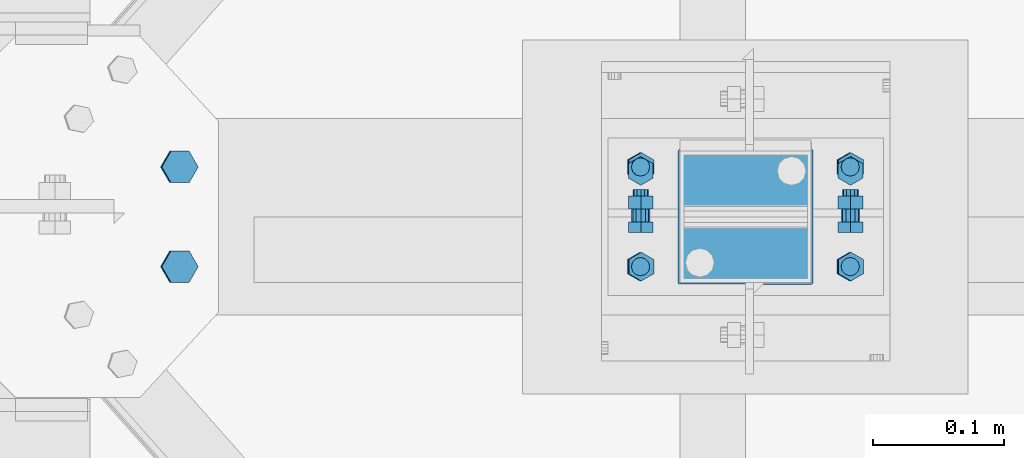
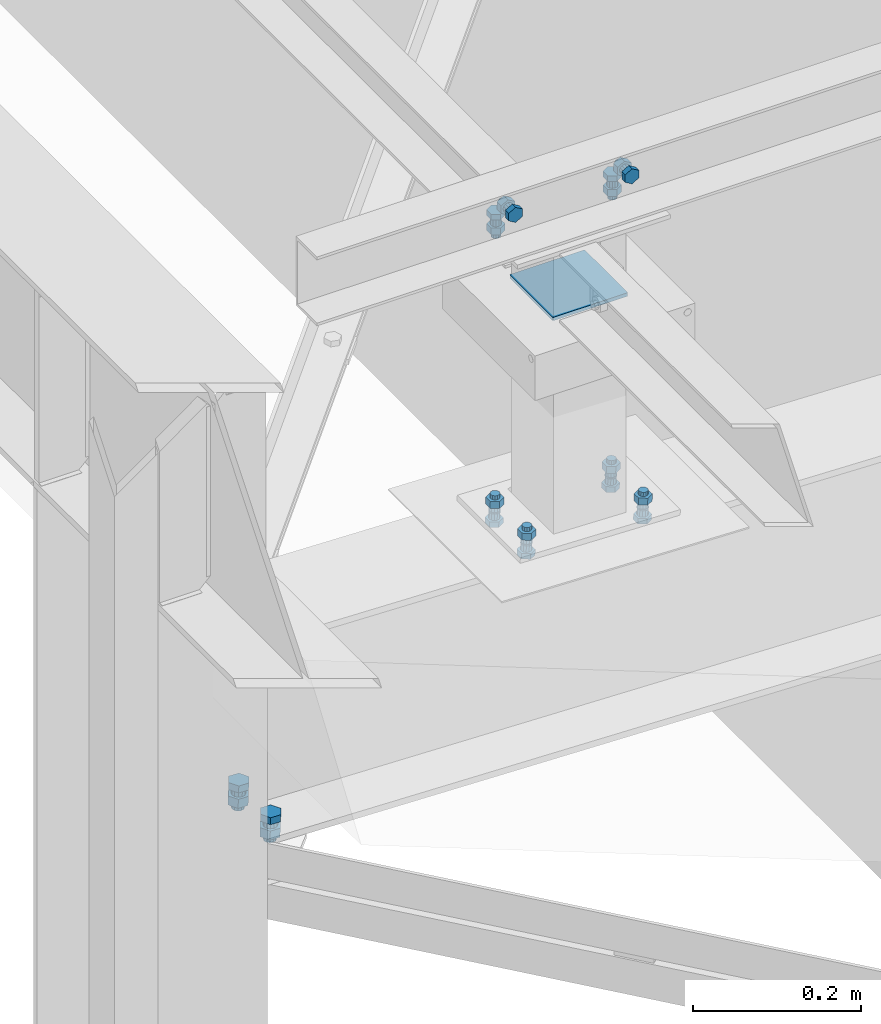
# One storey, part 352 of 3134: 6 mechanical fasteners, 4 elements without a shape of their own.
"""IFC2X3 building model written with IfcOpenShell, lengths in millimetres."""

from ifc_helpers import new_model, si_unit, frame, origin_with_axes, place, context, subcontext, project, spatial, faceted_brep, source, transform, mapped, material, type_object, element, aggregate, save


model = new_model("IFC2X3")

# Units and contexts
model_context = context("Model", 3, precision=1e-05, world=origin_with_axes())
body_context = subcontext(model_context, "Body", "Model", "MODEL_VIEW")
ifc_project = project(units=[si_unit("LENGTHUNIT", "METRE", prefix="MILLI"), si_unit("AREAUNIT", "SQUARE_METRE"), si_unit("VOLUMEUNIT", "CUBIC_METRE"), si_unit("MASSUNIT", "GRAM", prefix="KILO"), si_unit("TIMEUNIT", "SECOND"), si_unit("PLANEANGLEUNIT", "RADIAN"), si_unit("SOLIDANGLEUNIT", "STERADIAN"), si_unit("THERMODYNAMICTEMPERATUREUNIT", "DEGREE_CELSIUS"), si_unit("LUMINOUSINTENSITYUNIT", "LUMEN")], contexts=[model_context])

# Site, building, storey
site_placement = place(None, origin_with_axes())
site = spatial("IfcSite", under=ifc_project, at=site_placement, CompositionType="ELEMENT")
building_placement = place(site_placement, origin_with_axes())
building = spatial("IfcBuilding", under=site, at=building_placement, Name="Undefined", CompositionType="ELEMENT")
storey_placement = place(building_placement, origin_with_axes())
storey = spatial("IfcBuildingStorey", under=building, at=storey_placement, Name="Undefined", CompositionType="ELEMENT", Elevation=0.0)

# Assembly, mechanical fastener
assembly_1_placement = place(storey_placement, origin_with_axes())
assembly_1 = element("IfcElementAssembly", 1, at=assembly_1_placement, inside=storey, AssemblyPlace="NOTDEFINED", PredefinedType="RIGID_FRAME")
ifc_material_1 = material(Name="8.8")
mechanical_fastener_type = type_object("IfcMechanicalFastenerType", Name="Bolt assembly")
shared_shape_1 = source(origin_with_axes(), body_context, "Body", "Brep", [
    faceted_brep([(10.9696551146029, -14.0, 0.0), (5.48482755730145, -14.0, 9.5), (-5.48482755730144, -14.0, 9.5), (-10.9696551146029, -14.0, 1.34339530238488e-15), (-5.48482755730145, -14.0, -9.5), (5.48482755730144, -14.0, -9.50000000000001), (5.48482755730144, -6.0, -9.50000000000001), (-5.48482755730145, -6.0, -9.5), (-10.9696551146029, -6.0, 1.34339530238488e-15), (-5.48482755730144, -6.0, 9.5), (5.48482755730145, -6.0, 9.5), (10.9696551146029, -6.0, 0.0), (6.0, -6.0, 0.0), (5.19615242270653, -6.0, 3.00000000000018), (2.99999999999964, -6.0, 5.19615242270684), (-6.21801588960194e-13, -6.0, 6.0), (-3.00000000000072, -6.0, 5.19615242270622), (-5.19615242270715, -6.0, 2.9999999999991), (-6.0, -6.0, -1.24360317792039e-12), (-5.19615242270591, -6.0, -3.00000000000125), (-2.99999999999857, -6.0, -5.19615242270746), (1.85874342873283e-12, -6.0, -6.0), (3.00000000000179, -6.0, -5.1961524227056), (5.19615242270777, -6.0, -2.99999999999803), (5.19615242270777, 24.0, -2.99999999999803), (3.00000000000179, 24.0, -5.1961524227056), (1.85874342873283e-12, 24.0, -6.0), (-2.99999999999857, 24.0, -5.19615242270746), (-5.19615242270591, 24.0, -3.00000000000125), (-6.0, 24.0, -1.24360317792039e-12), (-5.19615242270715, 24.0, 2.9999999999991), (-3.00000000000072, 24.0, 5.19615242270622), (-6.21801588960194e-13, 24.0, 6.0), (2.99999999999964, 24.0, 5.19615242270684), (5.19615242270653, 24.0, 3.00000000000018), (6.0, 24.0, 0.0), (10.9696551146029, 6.00000000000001, 0.0), (5.48482755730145, 6.00000000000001, 9.5), (-5.48482755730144, 6.00000000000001, 9.5), (-10.9696551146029, 6.00000000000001, 1.34339530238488e-15), (-5.48482755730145, 6.00000000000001, -9.5), (5.48482755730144, 6.00000000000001, -9.50000000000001), (5.48482755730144, 16.0, -9.50000000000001), (-5.48482755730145, 16.0, -9.5), (-10.9696551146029, 16.0, 1.34339530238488e-15), (-5.48482755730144, 16.0, 9.5), (5.48482755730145, 16.0, 9.5), (10.9696551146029, 16.0, 0.0)], [[[0, 1, 2, 3, 4, 5]], [[6, 7, 8, 9, 10, 11]], [[0, 11, 10, 1]], [[1, 10, 9, 2]], [[2, 9, 8, 3]], [[3, 8, 7, 4]], [[4, 7, 6, 5]], [[5, 6, 11, 0]], [[12, 13, 14, 15, 16, 17, 18, 19, 20, 21, 22, 23]], [[24, 25, 26, 27, 28, 29, 30, 31, 32, 33, 34, 35]], [[12, 35, 34, 13]], [[13, 34, 33, 14]], [[14, 33, 32, 15]], [[15, 32, 31, 16]], [[16, 31, 30, 17]], [[17, 30, 29, 18]], [[18, 29, 28, 19]], [[19, 28, 27, 20]], [[20, 27, 26, 21]], [[21, 26, 25, 22]], [[22, 25, 24, 23]], [[23, 24, 35, 12]], [[36, 37, 38, 39, 40, 41]], [[42, 43, 44, 45, 46, 47]], [[36, 47, 46, 37]], [[37, 46, 45, 38]], [[38, 45, 44, 39]], [[39, 44, 43, 40]], [[40, 43, 42, 41]], [[41, 42, 47, 36]]]),
    faceted_brep([(7.0, -0.1, 0.0), (6.06217782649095, -0.1, 3.50000000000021), (3.49999999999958, -0.1, 6.06217782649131), (-7.25435187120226e-13, -0.1, 7.0), (-3.50000000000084, -0.1, 6.06217782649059), (-6.06217782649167, -0.1, 3.49999999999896), (-7.0, -0.1, -1.45087037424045e-12), (-6.06217782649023, -0.1, -3.50000000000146), (-3.49999999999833, -0.1, -6.06217782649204), (2.1685340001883e-12, -0.1, -7.0), (3.50000000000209, -0.1, -6.06217782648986), (6.0621778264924, -0.1, -3.4999999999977), (6.0621778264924, 6.00000000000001, -3.4999999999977), (3.50000000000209, 6.00000000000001, -6.06217782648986), (2.1685340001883e-12, 6.00000000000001, -7.0), (-3.49999999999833, 6.00000000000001, -6.06217782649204), (-6.06217782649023, 6.00000000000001, -3.50000000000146), (-7.0, 6.00000000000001, -1.45087037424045e-12), (-6.06217782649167, 6.00000000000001, 3.49999999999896), (-3.50000000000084, 6.00000000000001, 6.06217782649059), (-7.25435187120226e-13, 6.00000000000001, 7.0), (3.49999999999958, 6.00000000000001, 6.06217782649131), (6.06217782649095, 6.00000000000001, 3.50000000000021), (7.0, 6.00000000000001, 0.0), (7.0, -5.9, 0.0), (6.06217782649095, -5.9, 3.50000000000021), (3.49999999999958, -5.9, 6.06217782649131), (-7.25435187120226e-13, -5.9, 7.0), (-3.50000000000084, -5.9, 6.06217782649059), (-6.06217782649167, -5.9, 3.49999999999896), (-7.0, -5.9, -1.45087037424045e-12), (-6.06217782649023, -5.9, -3.50000000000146), (-3.49999999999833, -5.9, -6.06217782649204), (2.1685340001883e-12, -5.9, -7.0), (3.50000000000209, -5.9, -6.06217782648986), (6.0621778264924, -5.9, -3.4999999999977), (6.0621778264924, 0.0999999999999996, -3.4999999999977), (3.50000000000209, 0.0999999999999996, -6.06217782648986), (2.1685340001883e-12, 0.0999999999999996, -7.0), (-3.49999999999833, 0.0999999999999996, -6.06217782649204), (-6.06217782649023, 0.0999999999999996, -3.50000000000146), (-7.0, 0.0999999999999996, -1.45087037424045e-12), (-6.06217782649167, 0.0999999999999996, 3.49999999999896), (-3.50000000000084, 0.0999999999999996, 6.06217782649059), (-7.25435187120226e-13, 0.0999999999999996, 7.0), (3.49999999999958, 0.0999999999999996, 6.06217782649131), (6.06217782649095, 0.0999999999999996, 3.50000000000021), (7.0, 0.0999999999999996, 0.0)], [[[0, 1, 2, 3, 4, 5, 6, 7, 8, 9, 10, 11]], [[12, 13, 14, 15, 16, 17, 18, 19, 20, 21, 22, 23]], [[0, 23, 22, 1]], [[1, 22, 21, 2]], [[2, 21, 20, 3]], [[3, 20, 19, 4]], [[4, 19, 18, 5]], [[5, 18, 17, 6]], [[6, 17, 16, 7]], [[7, 16, 15, 8]], [[8, 15, 14, 9]], [[9, 14, 13, 10]], [[10, 13, 12, 11]], [[11, 12, 23, 0]], [[24, 25, 26, 27, 28, 29, 30, 31, 32, 33, 34, 35]], [[36, 37, 38, 39, 40, 41, 42, 43, 44, 45, 46, 47]], [[24, 47, 46, 25]], [[25, 46, 45, 26]], [[26, 45, 44, 27]], [[27, 44, 43, 28]], [[28, 43, 42, 29]], [[29, 42, 41, 30]], [[30, 41, 40, 31]], [[31, 40, 39, 32]], [[32, 39, 38, 33]], [[33, 38, 37, 34]], [[34, 37, 36, 35]], [[35, 36, 47, 24]]]),
])
mechanical_fastener_1_placement = place(assembly_1_placement, frame((68125.0, 14765.0, 5850.0), z_axis=(1.0, 0.0, 0.0), x_axis=(0.0, -1.0, 0.0)))
mechanical_fastener_1 = element("IfcMechanicalFastener", 2, at=mechanical_fastener_1_placement, type_object=mechanical_fastener_type, material=ifc_material_1, Name="Bolt assembly", NominalDiameter=12.0, NominalLength=30.0, context=body_context, shape_type="MappedRepresentation", body=[
    mapped(shared_shape_1, transform((0.0, -5.32963895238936e-10, -79.9999999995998))),
    mapped(shared_shape_1, transform((0.0, 5.3114490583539e-10, 79.9999999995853))),
])

assembly_2_placement = place(storey_placement, origin_with_axes())
assembly_2 = element("IfcElementAssembly", 3, at=assembly_2_placement, inside=storey, AssemblyPlace="NOTDEFINED", PredefinedType="RIGID_FRAME")
shared_shape_2 = source(origin_with_axes(), body_context, "Body", "Brep", [
    faceted_brep([(7.0, 13.0000253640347, 0.0), (6.06217782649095, 13.0000253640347, 3.50000000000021), (3.49999999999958, 13.0000253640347, 6.06217782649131), (-7.25435187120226e-13, 13.0000253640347, 7.0), (-3.50000000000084, 13.0000253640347, 6.06217782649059), (-6.06217782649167, 13.0000253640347, 3.49999999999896), (-7.0, 13.0000253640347, -1.45087037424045e-12), (-6.06217782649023, 13.0000253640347, -3.50000000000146), (-3.49999999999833, 13.0000253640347, -6.06217782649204), (2.1685340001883e-12, 13.0000253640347, -7.0), (3.50000000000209, 13.0000253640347, -6.06217782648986), (6.0621778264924, 13.0000253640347, -3.4999999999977), (6.0621778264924, 15.0999999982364, -3.4999999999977), (3.50000000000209, 15.0999999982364, -6.06217782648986), (2.1685340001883e-12, 15.0999999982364, -7.0), (-3.49999999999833, 15.0999999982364, -6.06217782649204), (-6.06217782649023, 15.0999999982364, -3.50000000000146), (-7.0, 15.0999999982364, -1.45087037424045e-12), (-6.06217782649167, 15.0999999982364, 3.49999999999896), (-3.50000000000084, 15.0999999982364, 6.06217782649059), (-7.25435187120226e-13, 15.0999999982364, 7.0), (3.49999999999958, 15.0999999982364, 6.06217782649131), (6.06217782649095, 15.0999999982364, 3.50000000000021), (7.0, 15.0999999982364, 0.0)], [[[0, 1, 2, 3, 4, 5, 6, 7, 8, 9, 10, 11]], [[12, 13, 14, 15, 16, 17, 18, 19, 20, 21, 22, 23]], [[0, 23, 22, 1]], [[1, 22, 21, 2]], [[2, 21, 20, 3]], [[3, 20, 19, 4]], [[4, 19, 18, 5]], [[5, 18, 17, 6]], [[6, 17, 16, 7]], [[7, 16, 15, 8]], [[8, 15, 14, 9]], [[9, 14, 13, 10]], [[10, 13, 12, 11]], [[11, 12, 23, 0]]]),
])
mechanical_fastener_2_placement = place(assembly_2_placement, frame((68124.3451187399, 14768.0, 5409.1772055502), z_axis=(-0.99951962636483, 0.0, 0.0309922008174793), x_axis=(0.0, -1.0, 0.0)))
mechanical_fastener_2 = element("IfcMechanicalFastener", 4, at=mechanical_fastener_2_placement, type_object=mechanical_fastener_type, material=ifc_material_1, Name="Bolt assembly", NominalDiameter=12.0, NominalLength=2.0, context=body_context, shape_type="MappedRepresentation", body=[
    mapped(shared_shape_2, transform((0.0, -5.32963895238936e-10, -79.9999999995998))),
    mapped(shared_shape_2, transform((76.0, -5.32963895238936e-10, -79.9999999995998))),
    mapped(shared_shape_2, transform((0.0, 5.3114490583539e-10, 79.9999999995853))),
    mapped(shared_shape_2, transform((76.0, 5.3114490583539e-10, 79.9999999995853))),
])
aggregate(assembly_2, [mechanical_fastener_2])

assembly_3_placement = place(storey_placement, origin_with_axes())
assembly_3 = element("IfcElementAssembly", 5, at=assembly_3_placement, inside=storey, AssemblyPlace="NOTDEFINED", PredefinedType="RIGID_FRAME")
ifc_material_2 = material(Name="6.8")
shared_shape_3 = source(origin_with_axes(), body_context, "Body", "Brep", [
    faceted_brep([(51.5, 1.36424205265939e-12, 50.0), (51.3858192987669, 1.36424205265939e-12, 50.5740251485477), (51.0606601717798, 1.36424205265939e-12, 51.0606601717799), (50.5740251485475, 1.36424205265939e-12, 51.385819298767), (-50.0000000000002, 1.36424205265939e-12, 51.5), (-50.7500000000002, 1.36424205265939e-12, 51.2990381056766), (-51.2990381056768, 1.36424205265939e-12, 50.7499999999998), (-51.5, 1.36424205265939e-12, 49.9999999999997), (-51.5, 1.36424205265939e-12, -50.0000000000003), (-51.2990381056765, 1.36424205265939e-12, -50.7500000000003), (-50.7499999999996, 1.36424205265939e-12, -51.2990381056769), (-49.9999999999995, 1.36424205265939e-12, -51.5), (50.0000000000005, 1.36424205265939e-12, -51.5), (50.7500000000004, 1.36424205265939e-12, -51.2990381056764), (51.2990381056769, 1.36424205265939e-12, -50.7499999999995), (51.5, 1.36424205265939e-12, -49.9999999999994), (51.5, 5.10000000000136, -49.9999999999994), (51.2990381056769, 5.10000000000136, -50.7499999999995), (50.7500000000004, 5.10000000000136, -51.2990381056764), (50.0000000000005, 5.10000000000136, -51.5), (-49.9999999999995, 5.10000000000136, -51.5), (-50.7499999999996, 5.10000000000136, -51.2990381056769), (-51.2990381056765, 5.10000000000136, -50.7500000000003), (-51.5, 5.10000000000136, -50.0000000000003), (-51.5, 5.10000000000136, 49.9999999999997), (-51.2990381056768, 5.10000000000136, 50.7499999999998), (-50.7500000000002, 5.10000000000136, 51.2990381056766), (-50.0000000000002, 5.10000000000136, 51.5), (50.5740251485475, 5.10000000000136, 51.385819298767), (51.0606601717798, 5.10000000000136, 51.0606601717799), (51.3858192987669, 5.10000000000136, 50.5740251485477), (51.5, 5.10000000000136, 50.0)], [[[0, 1, 2, 3, 4, 5, 6, 7, 8, 9, 10, 11, 12, 13, 14, 15]], [[16, 17, 18, 19, 20, 21, 22, 23, 24, 25, 26, 27, 28, 29, 30, 31]], [[0, 31, 30, 1]], [[1, 30, 29, 2]], [[2, 29, 28, 3]], [[3, 28, 27, 4]], [[4, 27, 26, 5]], [[5, 26, 25, 6]], [[6, 25, 24, 7]], [[7, 24, 23, 8]], [[8, 23, 22, 9]], [[9, 22, 21, 10]], [[10, 21, 20, 11]], [[11, 20, 19, 12]], [[12, 19, 18, 13]], [[13, 18, 17, 14]], [[14, 17, 16, 15]], [[15, 16, 31, 0]]]),
])
mechanical_fastener_3_placement = place(assembly_3_placement, frame((68125.0, 14730.0, 5750.0), z_axis=(0.0, -1.0, 0.0), x_axis=(-1.0, 0.0, 0.0)))
mechanical_fastener_3 = element("IfcMechanicalFastener", 6, at=mechanical_fastener_3_placement, type_object=mechanical_fastener_type, material=ifc_material_2, Name="Bolt assembly", NominalDiameter=10.0, NominalLength=5.0, context=body_context, shape_type="MappedRepresentation", body=[
    mapped(shared_shape_3, transform((0.0, 0.0, 0.0))),
])
aggregate(assembly_3, [mechanical_fastener_3])

# Mechanical fastener
shared_shape_4 = source(origin_with_axes(), body_context, "Body", "Brep", [
    faceted_brep([(10.9696551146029, -12.0, 0.0), (5.48482755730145, -12.0, 9.5), (-5.48482755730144, -12.0, 9.5), (-10.9696551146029, -12.0, 1.34339530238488e-15), (-5.48482755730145, -12.0, -9.5), (5.48482755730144, -12.0, -9.50000000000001), (5.48482755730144, -4.0, -9.50000000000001), (-5.48482755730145, -4.0, -9.5), (-10.9696551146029, -4.0, 1.34339530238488e-15), (-5.48482755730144, -4.0, 9.5), (5.48482755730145, -4.0, 9.5), (10.9696551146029, -4.0, 0.0), (6.0, -4.0, 0.0), (5.19615242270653, -4.0, 3.00000000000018), (2.99999999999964, -4.0, 5.19615242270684), (-6.21801588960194e-13, -4.0, 6.0), (-3.00000000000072, -4.0, 5.19615242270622), (-5.19615242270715, -4.0, 2.9999999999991), (-6.0, -4.0, -1.24360317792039e-12), (-5.19615242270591, -4.0, -3.00000000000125), (-2.99999999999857, -4.0, -5.19615242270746), (1.85874342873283e-12, -4.0, -6.0), (3.00000000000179, -4.0, -5.1961524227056), (5.19615242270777, -4.0, -2.99999999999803), (5.19615242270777, 21.0, -2.99999999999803), (3.00000000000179, 21.0, -5.1961524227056), (1.85874342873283e-12, 21.0, -6.0), (-2.99999999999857, 21.0, -5.19615242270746), (-5.19615242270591, 21.0, -3.00000000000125), (-6.0, 21.0, -1.24360317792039e-12), (-5.19615242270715, 21.0, 2.9999999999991), (-3.00000000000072, 21.0, 5.19615242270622), (-6.21801588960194e-13, 21.0, 6.0), (2.99999999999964, 21.0, 5.19615242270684), (5.19615242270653, 21.0, 3.00000000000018), (6.0, 21.0, 0.0), (10.9696551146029, 6.00000000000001, 0.0), (5.48482755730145, 6.00000000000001, 9.5), (-5.48482755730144, 6.00000000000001, 9.5), (-10.9696551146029, 6.00000000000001, 1.34339530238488e-15), (-5.48482755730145, 6.00000000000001, -9.5), (5.48482755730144, 6.00000000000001, -9.50000000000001), (5.48482755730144, 16.0, -9.50000000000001), (-5.48482755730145, 16.0, -9.5), (-10.9696551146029, 16.0, 1.34339530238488e-15), (-5.48482755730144, 16.0, 9.5), (5.48482755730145, 16.0, 9.5), (10.9696551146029, 16.0, 0.0)], [[[0, 1, 2, 3, 4, 5]], [[6, 7, 8, 9, 10, 11]], [[0, 11, 10, 1]], [[1, 10, 9, 2]], [[2, 9, 8, 3]], [[3, 8, 7, 4]], [[4, 7, 6, 5]], [[5, 6, 11, 0]], [[12, 13, 14, 15, 16, 17, 18, 19, 20, 21, 22, 23]], [[24, 25, 26, 27, 28, 29, 30, 31, 32, 33, 34, 35]], [[12, 35, 34, 13]], [[13, 34, 33, 14]], [[14, 33, 32, 15]], [[15, 32, 31, 16]], [[16, 31, 30, 17]], [[17, 30, 29, 18]], [[18, 29, 28, 19]], [[19, 28, 27, 20]], [[20, 27, 26, 21]], [[21, 26, 25, 22]], [[22, 25, 24, 23]], [[23, 24, 35, 12]], [[36, 37, 38, 39, 40, 41]], [[42, 43, 44, 45, 46, 47]], [[36, 47, 46, 37]], [[37, 46, 45, 38]], [[38, 45, 44, 39]], [[39, 44, 43, 40]], [[40, 43, 42, 41]], [[41, 42, 47, 36]]]),
    faceted_brep([(7.0, -3.9, 0.0), (6.06217782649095, -3.9, 3.50000000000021), (3.49999999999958, -3.9, 6.06217782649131), (-7.25435187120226e-13, -3.9, 7.0), (-3.50000000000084, -3.9, 6.06217782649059), (-6.06217782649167, -3.9, 3.49999999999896), (-7.0, -3.9, -1.45087037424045e-12), (-6.06217782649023, -3.9, -3.50000000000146), (-3.49999999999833, -3.9, -6.06217782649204), (2.1685340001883e-12, -3.9, -7.0), (3.50000000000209, -3.9, -6.06217782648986), (6.0621778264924, -3.9, -3.4999999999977), (6.0621778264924, 0.0999999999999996, -3.4999999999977), (3.50000000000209, 0.0999999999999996, -6.06217782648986), (2.1685340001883e-12, 0.0999999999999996, -7.0), (-3.49999999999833, 0.0999999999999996, -6.06217782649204), (-6.06217782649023, 0.0999999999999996, -3.50000000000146), (-7.0, 0.0999999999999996, -1.45087037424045e-12), (-6.06217782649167, 0.0999999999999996, 3.49999999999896), (-3.50000000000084, 0.0999999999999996, 6.06217782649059), (-7.25435187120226e-13, 0.0999999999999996, 7.0), (3.49999999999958, 0.0999999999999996, 6.06217782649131), (6.06217782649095, 0.0999999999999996, 3.50000000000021), (7.0, 0.0999999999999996, 0.0), (7.0, -0.1, 0.0), (6.06217782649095, -0.1, 3.50000000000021), (3.49999999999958, -0.1, 6.06217782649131), (-7.25435187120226e-13, -0.1, 7.0), (-3.50000000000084, -0.1, 6.06217782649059), (-6.06217782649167, -0.1, 3.49999999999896), (-7.0, -0.1, -1.45087037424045e-12), (-6.06217782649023, -0.1, -3.50000000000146), (-3.49999999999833, -0.1, -6.06217782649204), (2.1685340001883e-12, -0.1, -7.0), (3.50000000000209, -0.1, -6.06217782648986), (6.0621778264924, -0.1, -3.4999999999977), (6.0621778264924, 6.00000000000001, -3.4999999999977), (3.50000000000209, 6.00000000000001, -6.06217782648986), (2.1685340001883e-12, 6.00000000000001, -7.0), (-3.49999999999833, 6.00000000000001, -6.06217782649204), (-6.06217782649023, 6.00000000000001, -3.50000000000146), (-7.0, 6.00000000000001, -1.45087037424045e-12), (-6.06217782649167, 6.00000000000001, 3.49999999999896), (-3.50000000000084, 6.00000000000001, 6.06217782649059), (-7.25435187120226e-13, 6.00000000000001, 7.0), (3.49999999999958, 6.00000000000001, 6.06217782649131), (6.06217782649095, 6.00000000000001, 3.50000000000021), (7.0, 6.00000000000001, 0.0)], [[[0, 1, 2, 3, 4, 5, 6, 7, 8, 9, 10, 11]], [[12, 13, 14, 15, 16, 17, 18, 19, 20, 21, 22, 23]], [[0, 23, 22, 1]], [[1, 22, 21, 2]], [[2, 21, 20, 3]], [[3, 20, 19, 4]], [[4, 19, 18, 5]], [[5, 18, 17, 6]], [[6, 17, 16, 7]], [[7, 16, 15, 8]], [[8, 15, 14, 9]], [[9, 14, 13, 10]], [[10, 13, 12, 11]], [[11, 12, 23, 0]], [[24, 25, 26, 27, 28, 29, 30, 31, 32, 33, 34, 35]], [[36, 37, 38, 39, 40, 41, 42, 43, 44, 45, 46, 47]], [[24, 47, 46, 25]], [[25, 46, 45, 26]], [[26, 45, 44, 27]], [[27, 44, 43, 28]], [[28, 43, 42, 29]], [[29, 42, 41, 30]], [[30, 41, 40, 31]], [[31, 40, 39, 32]], [[32, 39, 38, 33]], [[33, 38, 37, 34]], [[34, 37, 36, 35]], [[35, 36, 47, 24]]]),
])
mechanical_fastener_4_placement = place(assembly_1_placement, frame((68125.0, 14730.0, 5885.0), z_axis=(1.0, 0.0, 0.0), x_axis=(0.0, 0.0, -1.0)))
mechanical_fastener_4 = element("IfcMechanicalFastener", 7, at=mechanical_fastener_4_placement, type_object=mechanical_fastener_type, material=ifc_material_1, Name="Bolt assembly", NominalDiameter=12.0, NominalLength=25.0, context=body_context, shape_type="MappedRepresentation", body=[
    mapped(shared_shape_4, transform((0.0, -5.32963895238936e-10, -79.9999999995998))),
    mapped(shared_shape_4, transform((0.0, 5.3114490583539e-10, 79.9999999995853))),
])

aggregate(assembly_1, [mechanical_fastener_4, mechanical_fastener_1])

# Assembly, mechanical fasteners
assembly_4_placement = place(storey_placement, origin_with_axes())
assembly_4 = element("IfcElementAssembly", 8, at=assembly_4_placement, inside=storey, Name="300", AssemblyPlace="NOTDEFINED", PredefinedType="RIGID_FRAME")
shared_shape_5 = source(origin_with_axes(), body_context, "Body", "Brep", [
    faceted_brep([(10.9696551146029, -10.2005960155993, 0.0), (5.48482755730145, -10.2005960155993, 9.5), (-5.48482755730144, -10.2005960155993, 9.5), (-10.9696551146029, -10.2005960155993, 1.34339530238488e-15), (-5.48482755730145, -10.2005960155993, -9.5), (5.48482755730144, -10.2005960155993, -9.50000000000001), (5.48482755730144, -2.20059601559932, -9.50000000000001), (-5.48482755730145, -2.20059601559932, -9.5), (-10.9696551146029, -2.20059601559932, 1.34339530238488e-15), (-5.48482755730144, -2.20059601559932, 9.5), (5.48482755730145, -2.20059601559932, 9.5), (10.9696551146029, -2.20059601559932, 0.0), (6.0, -2.20059601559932, 0.0), (5.19615242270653, -2.20059601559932, 3.00000000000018), (2.99999999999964, -2.20059601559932, 5.19615242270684), (-6.21801588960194e-13, -2.20059601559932, 6.0), (-3.00000000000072, -2.20059601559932, 5.19615242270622), (-5.19615242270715, -2.20059601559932, 2.9999999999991), (-6.0, -2.20059601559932, -1.24360317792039e-12), (-5.19615242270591, -2.20059601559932, -3.00000000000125), (-2.99999999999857, -2.20059601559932, -5.19615242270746), (1.85874342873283e-12, -2.20059601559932, -6.0), (3.00000000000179, -2.20059601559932, -5.1961524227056), (5.19615242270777, -2.20059601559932, -2.99999999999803), (5.19615242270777, 32.7994039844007, -2.99999999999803), (3.00000000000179, 32.7994039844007, -5.1961524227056), (1.85874342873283e-12, 32.7994039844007, -6.0), (-2.99999999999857, 32.7994039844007, -5.19615242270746), (-5.19615242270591, 32.7994039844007, -3.00000000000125), (-6.0, 32.7994039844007, -1.24360317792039e-12), (-5.19615242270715, 32.7994039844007, 2.9999999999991), (-3.00000000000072, 32.7994039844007, 5.19615242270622), (-6.21801588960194e-13, 32.7994039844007, 6.0), (2.99999999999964, 32.7994039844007, 5.19615242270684), (5.19615242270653, 32.7994039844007, 3.00000000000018), (6.0, 32.7994039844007, 0.0), (10.9696551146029, 17.0008987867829, 0.0), (5.48482755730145, 17.0008987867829, 9.5), (-5.48482755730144, 17.0008987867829, 9.5), (-10.9696551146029, 17.0008987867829, 1.34339530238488e-15), (-5.48482755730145, 17.0008987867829, -9.5), (5.48482755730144, 17.0008987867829, -9.50000000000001), (5.48482755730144, 27.0008987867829, -9.50000000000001), (-5.48482755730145, 27.0008987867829, -9.5), (-10.9696551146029, 27.0008987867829, 1.34339530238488e-15), (-5.48482755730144, 27.0008987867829, 9.5), (5.48482755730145, 27.0008987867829, 9.5), (10.9696551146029, 27.0008987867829, 0.0)], [[[0, 1, 2, 3, 4, 5]], [[6, 7, 8, 9, 10, 11]], [[0, 11, 10, 1]], [[1, 10, 9, 2]], [[2, 9, 8, 3]], [[3, 8, 7, 4]], [[4, 7, 6, 5]], [[5, 6, 11, 0]], [[12, 13, 14, 15, 16, 17, 18, 19, 20, 21, 22, 23]], [[24, 25, 26, 27, 28, 29, 30, 31, 32, 33, 34, 35]], [[12, 35, 34, 13]], [[13, 34, 33, 14]], [[14, 33, 32, 15]], [[15, 32, 31, 16]], [[16, 31, 30, 17]], [[17, 30, 29, 18]], [[18, 29, 28, 19]], [[19, 28, 27, 20]], [[20, 27, 26, 21]], [[21, 26, 25, 22]], [[22, 25, 24, 23]], [[23, 24, 35, 12]], [[36, 37, 38, 39, 40, 41]], [[42, 43, 44, 45, 46, 47]], [[36, 47, 46, 37]], [[37, 46, 45, 38]], [[38, 45, 44, 39]], [[39, 44, 43, 40]], [[40, 43, 42, 41]], [[41, 42, 47, 36]]]),
    faceted_brep([(7.0, 8.90089878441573, 0.0), (6.06217782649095, 8.90089878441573, 3.50000000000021), (3.49999999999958, 8.90089878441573, 6.06217782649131), (-7.25435187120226e-13, 8.90089878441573, 7.0), (-3.50000000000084, 8.90089878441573, 6.06217782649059), (-6.06217782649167, 8.90089878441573, 3.49999999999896), (-7.0, 8.90089878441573, -1.45087037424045e-12), (-6.06217782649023, 8.90089878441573, -3.50000000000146), (-3.49999999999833, 8.90089878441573, -6.06217782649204), (2.1685340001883e-12, 8.90089878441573, -7.0), (3.50000000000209, 8.90089878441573, -6.06217782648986), (6.0621778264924, 8.90089878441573, -3.4999999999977), (6.0621778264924, 17.0008987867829, -3.4999999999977), (3.50000000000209, 17.0008987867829, -6.06217782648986), (2.1685340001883e-12, 17.0008987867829, -7.0), (-3.49999999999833, 17.0008987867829, -6.06217782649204), (-6.06217782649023, 17.0008987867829, -3.50000000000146), (-7.0, 17.0008987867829, -1.45087037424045e-12), (-6.06217782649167, 17.0008987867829, 3.49999999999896), (-3.50000000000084, 17.0008987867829, 6.06217782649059), (-7.25435187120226e-13, 17.0008987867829, 7.0), (3.49999999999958, 17.0008987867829, 6.06217782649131), (6.06217782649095, 17.0008987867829, 3.50000000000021), (7.0, 17.0008987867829, 0.0), (7.0, -2.10059601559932, 0.0), (6.06217782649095, -2.10059601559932, 3.50000000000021), (3.49999999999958, -2.10059601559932, 6.06217782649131), (-7.25435187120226e-13, -2.10059601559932, 7.0), (-3.50000000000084, -2.10059601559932, 6.06217782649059), (-6.06217782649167, -2.10059601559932, 3.49999999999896), (-7.0, -2.10059601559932, -1.45087037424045e-12), (-6.06217782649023, -2.10059601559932, -3.50000000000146), (-3.49999999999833, -2.10059601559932, -6.06217782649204), (2.1685340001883e-12, -2.10059601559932, -7.0), (3.50000000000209, -2.10059601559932, -6.06217782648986), (6.0621778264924, -2.10059601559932, -3.4999999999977), (6.0621778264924, 7.09940379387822, -3.4999999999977), (3.50000000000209, 7.09940379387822, -6.06217782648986), (2.1685340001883e-12, 7.09940379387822, -7.0), (-3.49999999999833, 7.09940379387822, -6.06217782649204), (-6.06217782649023, 7.09940379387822, -3.50000000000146), (-7.0, 7.09940379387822, -1.45087037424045e-12), (-6.06217782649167, 7.09940379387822, 3.49999999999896), (-3.50000000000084, 7.09940379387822, 6.06217782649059), (-7.25435187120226e-13, 7.09940379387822, 7.0), (3.49999999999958, 7.09940379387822, 6.06217782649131), (6.06217782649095, 7.09940379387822, 3.50000000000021), (7.0, 7.09940379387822, 0.0)], [[[0, 1, 2, 3, 4, 5, 6, 7, 8, 9, 10, 11]], [[12, 13, 14, 15, 16, 17, 18, 19, 20, 21, 22, 23]], [[0, 23, 22, 1]], [[1, 22, 21, 2]], [[2, 21, 20, 3]], [[3, 20, 19, 4]], [[4, 19, 18, 5]], [[5, 18, 17, 6]], [[6, 17, 16, 7]], [[7, 16, 15, 8]], [[8, 15, 14, 9]], [[9, 14, 13, 10]], [[10, 13, 12, 11]], [[11, 12, 23, 0]], [[24, 25, 26, 27, 28, 29, 30, 31, 32, 33, 34, 35]], [[36, 37, 38, 39, 40, 41, 42, 43, 44, 45, 46, 47]], [[24, 47, 46, 25]], [[25, 46, 45, 26]], [[26, 45, 44, 27]], [[27, 44, 43, 28]], [[28, 43, 42, 29]], [[29, 42, 41, 30]], [[30, 41, 40, 31]], [[31, 40, 39, 32]], [[32, 39, 38, 33]], [[33, 38, 37, 34]], [[34, 37, 36, 35]], [[35, 36, 47, 24]]]),
])
mechanical_fastener_5_placement = place(assembly_4_placement, frame((68124.5351187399, 14768.0, 5415.1872055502), z_axis=(-0.99951962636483, 0.0, 0.0309922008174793), x_axis=(0.0, -1.0, 0.0)))
mechanical_fastener_5 = element("IfcMechanicalFastener", 9, at=mechanical_fastener_5_placement, type_object=mechanical_fastener_type, material=ifc_material_1, Name="Bolt assembly", NominalDiameter=12.0, NominalLength=35.0, context=body_context, shape_type="MappedRepresentation", body=[
    mapped(shared_shape_5, transform((0.0, -5.32963895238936e-10, -79.9999999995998))),
    mapped(shared_shape_5, transform((76.0, -5.32963895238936e-10, -79.9999999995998))),
    mapped(shared_shape_5, transform((0.0, 5.3114490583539e-10, 79.9999999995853))),
    mapped(shared_shape_5, transform((76.0, 5.3114490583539e-10, 79.9999999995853))),
])
shared_shape_6 = source(origin_with_axes(), body_context, "Body", "Brep", [
    faceted_brep([(13.856406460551, -23.1999997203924, 0.0), (6.92820323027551, -23.1999997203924, 12.0), (-6.92820323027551, -23.1999997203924, 12.0), (-13.856406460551, -23.1999997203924, 1.69692038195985e-15), (-6.92820323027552, -23.1999997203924, -12.0), (6.9282032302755, -23.1999997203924, -12.0), (6.9282032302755, -13.1999997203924, -12.0), (-6.92820323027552, -13.1999997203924, -12.0), (-13.856406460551, -13.1999997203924, 1.69692038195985e-15), (-6.92820323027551, -13.1999997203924, 12.0), (6.92820323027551, -13.1999997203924, 12.0), (13.856406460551, -13.1999997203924, 0.0), (8.0, -13.1999997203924, 0.0), (6.92820323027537, -13.1999997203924, 4.00000000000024), (3.99999999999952, -13.1999997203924, 6.92820323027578), (-8.29068785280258e-13, -13.1999997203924, 8.0), (-4.00000000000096, -13.1999997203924, 6.92820323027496), (-6.9282032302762, -13.1999997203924, 3.99999999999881), (-8.0, -13.1999997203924, -1.65813757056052e-12), (-6.92820323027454, -13.1999997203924, -4.00000000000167), (-3.99999999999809, -13.1999997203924, -6.92820323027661), (2.47832457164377e-12, -13.1999997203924, -8.0), (4.00000000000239, -13.1999997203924, -6.92820323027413), (6.92820323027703, -13.1999997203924, -3.99999999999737), (6.92820323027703, 16.8000001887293, -3.99999999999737), (4.00000000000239, 16.8000001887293, -6.92820323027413), (2.47832457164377e-12, 16.8000001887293, -8.0), (-3.99999999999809, 16.8000001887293, -6.92820323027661), (-6.92820323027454, 16.8000001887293, -4.00000000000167), (-8.0, 16.8000001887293, -1.65813757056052e-12), (-6.9282032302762, 16.8000001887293, 3.99999999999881), (-4.00000000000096, 16.8000001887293, 6.92820323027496), (-8.29068785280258e-13, 16.8000001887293, 8.0), (3.99999999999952, 16.8000001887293, 6.92820323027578), (6.92820323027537, 16.8000001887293, 4.00000000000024), (8.0, 16.8000001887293, 0.0), (13.856406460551, -4.00000145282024, 0.0), (6.92820323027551, -4.00000145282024, 12.0), (-6.92820323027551, -4.00000145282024, 12.0), (-13.856406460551, -4.00000145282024, 1.69692038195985e-15), (-6.92820323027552, -4.00000145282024, -12.0), (6.9282032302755, -4.00000145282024, -12.0), (6.9282032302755, 9.00000000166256, -12.0), (-6.92820323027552, 9.00000000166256, -12.0), (-13.856406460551, 9.00000000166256, 1.69692038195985e-15), (-6.92820323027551, 9.00000000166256, 12.0), (6.92820323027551, 9.00000000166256, 12.0), (13.856406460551, 9.00000000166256, 0.0)], [[[0, 1, 2, 3, 4, 5]], [[6, 7, 8, 9, 10, 11]], [[0, 11, 10, 1]], [[1, 10, 9, 2]], [[2, 9, 8, 3]], [[3, 8, 7, 4]], [[4, 7, 6, 5]], [[5, 6, 11, 0]], [[12, 13, 14, 15, 16, 17, 18, 19, 20, 21, 22, 23]], [[24, 25, 26, 27, 28, 29, 30, 31, 32, 33, 34, 35]], [[12, 35, 34, 13]], [[13, 34, 33, 14]], [[14, 33, 32, 15]], [[15, 32, 31, 16]], [[16, 31, 30, 17]], [[17, 30, 29, 18]], [[18, 29, 28, 19]], [[19, 28, 27, 20]], [[20, 27, 26, 21]], [[21, 26, 25, 22]], [[22, 25, 24, 23]], [[23, 24, 35, 12]], [[36, 37, 38, 39, 40, 41]], [[42, 43, 44, 45, 46, 47]], [[36, 47, 46, 37]], [[37, 46, 45, 38]], [[38, 45, 44, 39]], [[39, 44, 43, 40]], [[40, 43, 42, 41]], [[41, 42, 47, 36]]]),
    faceted_brep([(9.0, -13.1999999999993, 0.0), (7.79422863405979, -13.1999999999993, 4.50000000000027), (4.49999999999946, -13.1999999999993, 7.79422863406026), (-9.3270238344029e-13, -13.1999999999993, 9.0), (-4.50000000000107, -13.1999999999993, 7.79422863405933), (-7.79422863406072, -13.1999999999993, 4.49999999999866), (-9.0, -13.1999999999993, -1.86540476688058e-12), (-7.79422863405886, -13.1999999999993, -4.50000000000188), (-4.49999999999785, -13.1999999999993, -7.79422863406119), (2.78811514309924e-12, -13.1999999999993, -9.0), (4.50000000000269, -13.1999999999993, -7.7942286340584), (7.79422863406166, -13.1999999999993, -4.49999999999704), (7.79422863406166, -3.9, -4.49999999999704), (4.50000000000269, -3.9, -7.7942286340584), (2.78811514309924e-12, -3.9, -9.0), (-4.49999999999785, -3.9, -7.79422863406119), (-7.79422863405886, -3.9, -4.50000000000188), (-9.0, -3.9, -1.86540476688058e-12), (-7.79422863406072, -3.9, 4.49999999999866), (-4.50000000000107, -3.9, 7.79422863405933), (-9.3270238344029e-13, -3.9, 9.0), (4.49999999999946, -3.9, 7.79422863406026), (7.79422863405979, -3.9, 4.50000000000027), (9.0, -3.9, 0.0)], [[[0, 1, 2, 3, 4, 5, 6, 7, 8, 9, 10, 11]], [[12, 13, 14, 15, 16, 17, 18, 19, 20, 21, 22, 23]], [[0, 23, 22, 1]], [[1, 22, 21, 2]], [[2, 21, 20, 3]], [[3, 20, 19, 4]], [[4, 19, 18, 5]], [[5, 18, 17, 6]], [[6, 17, 16, 7]], [[7, 16, 15, 8]], [[8, 15, 14, 9]], [[9, 14, 13, 10]], [[10, 13, 12, 11]], [[11, 12, 23, 0]]]),
])
mechanical_fastener_6_placement = place(assembly_4_placement, frame((67692.8635822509, 14730.0, 5134.4266352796), z_axis=(0.0, 1.0, 0.0), x_axis=(0.999519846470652, 0.0, -0.0309851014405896)))
mechanical_fastener_6 = element("IfcMechanicalFastener", 10, at=mechanical_fastener_6_placement, type_object=mechanical_fastener_type, material=ifc_material_1, Name="Bolt assembly", NominalDiameter=16.0, NominalLength=30.0, context=body_context, shape_type="MappedRepresentation", body=[
    mapped(shared_shape_6, transform((0.0, 0.0, -38.0))),
    mapped(shared_shape_6, transform((0.0, 0.0, 38.0))),
])
aggregate(assembly_4, [mechanical_fastener_5, mechanical_fastener_6])

save(model, "model.ifc")
